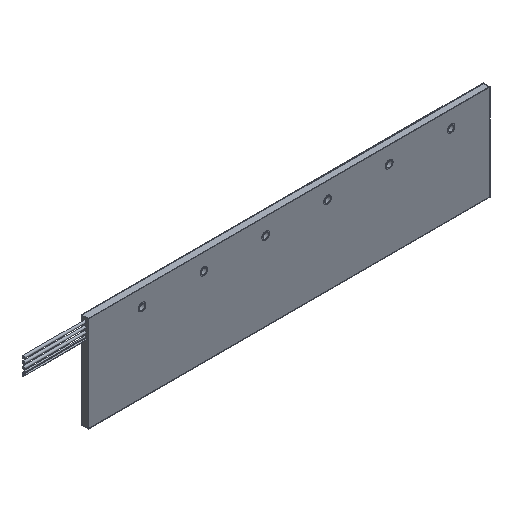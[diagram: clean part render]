
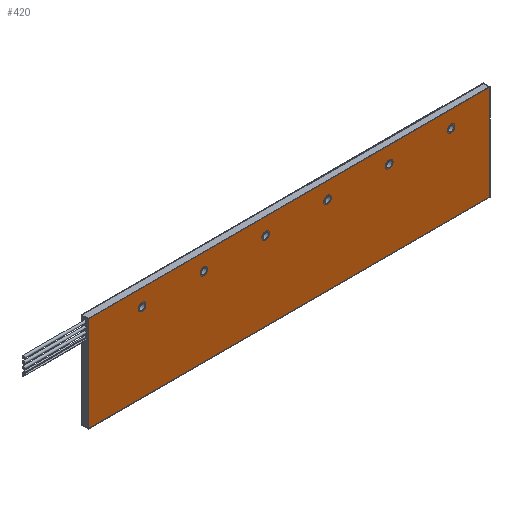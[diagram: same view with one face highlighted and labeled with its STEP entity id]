
A CAD part, isometric view. The second image highlights one B-rep face of the part: STEP entity #420.
In plain terms, the highlighted planar face has unit normal (0, -1, 0).
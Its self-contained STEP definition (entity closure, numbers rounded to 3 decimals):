
#420 = ADVANCED_FACE( '', ( #721, #722, #723, #724, #725, #726, #727 ), #728, .F. );
#721 = FACE_BOUND( '', #986, .T. );
#722 = FACE_BOUND( '', #987, .T. );
#723 = FACE_BOUND( '', #988, .T. );
#724 = FACE_BOUND( '', #989, .T. );
#725 = FACE_BOUND( '', #990, .T. );
#726 = FACE_BOUND( '', #991, .T. );
#727 = FACE_OUTER_BOUND( '', #992, .T. );
#728 = PLANE( '', #993 );
#986 = EDGE_LOOP( '', ( #1364 ) );
#987 = EDGE_LOOP( '', ( #1365 ) );
#988 = EDGE_LOOP( '', ( #1366 ) );
#989 = EDGE_LOOP( '', ( #1367 ) );
#990 = EDGE_LOOP( '', ( #1368 ) );
#991 = EDGE_LOOP( '', ( #1369 ) );
#992 = EDGE_LOOP( '', ( #1370, #1371, #1372, #1373 ) );
#993 = AXIS2_PLACEMENT_3D( '', #1374, #1375, #1376 );
#1364 = ORIENTED_EDGE( '', *, *, #1629, .T. );
#1365 = ORIENTED_EDGE( '', *, *, #1614, .T. );
#1366 = ORIENTED_EDGE( '', *, *, #1601, .T. );
#1367 = ORIENTED_EDGE( '', *, *, #1505, .T. );
#1368 = ORIENTED_EDGE( '', *, *, #1623, .T. );
#1369 = ORIENTED_EDGE( '', *, *, #1568, .T. );
#1370 = ORIENTED_EDGE( '', *, *, #1579, .T. );
#1371 = ORIENTED_EDGE( '', *, *, #1558, .T. );
#1372 = ORIENTED_EDGE( '', *, *, #1587, .T. );
#1373 = ORIENTED_EDGE( '', *, *, #1630, .T. );
#1374 = CARTESIAN_POINT( '', ( 0., 0., 61.95 ) );
#1375 = DIRECTION( '', ( 0., 1., 0. ) );
#1376 = DIRECTION( '', ( 0., 0., 1. ) );
#1505 = EDGE_CURVE( '', #1665, #1665, #1666, .T. );
#1558 = EDGE_CURVE( '', #1754, #1755, #1756, .T. );
#1568 = EDGE_CURVE( '', #1771, #1771, #1772, .T. );
#1579 = EDGE_CURVE( '', #1787, #1754, #1788, .T. );
#1587 = EDGE_CURVE( '', #1755, #1799, #1800, .T. );
#1601 = EDGE_CURVE( '', #1818, #1818, #1819, .T. );
#1614 = EDGE_CURVE( '', #1837, #1837, #1838, .T. );
#1623 = EDGE_CURVE( '', #1850, #1850, #1851, .T. );
#1629 = EDGE_CURVE( '', #1858, #1858, #1859, .T. );
#1630 = EDGE_CURVE( '', #1799, #1787, #1860, .T. );
#1665 = VERTEX_POINT( '', #1898 );
#1666 = CIRCLE( '', #1899, 1.8 );
#1754 = VERTEX_POINT( '', #2011 );
#1755 = VERTEX_POINT( '', #2012 );
#1756 = LINE( '', #2013, #2014 );
#1771 = VERTEX_POINT( '', #2035 );
#1772 = CIRCLE( '', #2036, 1.8 );
#1787 = VERTEX_POINT( '', #2054 );
#1788 = LINE( '', #2055, #2056 );
#1799 = VERTEX_POINT( '', #2069 );
#1800 = LINE( '', #2070, #2071 );
#1818 = VERTEX_POINT( '', #2093 );
#1819 = CIRCLE( '', #2094, 1.8 );
#1837 = VERTEX_POINT( '', #2113 );
#1838 = CIRCLE( '', #2114, 1.8 );
#1850 = VERTEX_POINT( '', #2127 );
#1851 = CIRCLE( '', #2128, 1.8 );
#1858 = VERTEX_POINT( '', #2137 );
#1859 = CIRCLE( '', #2138, 1.8 );
#1860 = LINE( '', #2139, #2140 );
#1898 = CARTESIAN_POINT( '', ( 236.75, 0., 50.95 ) );
#1899 = AXIS2_PLACEMENT_3D( '', #2181, #2182, #2183 );
#2011 = CARTESIAN_POINT( '', ( 0., 0., 0. ) );
#2012 = CARTESIAN_POINT( '', ( 259.9, 0., 0. ) );
#2013 = CARTESIAN_POINT( '', ( 0., 0., 0. ) );
#2014 = VECTOR( '', #2253, 1000. );
#2035 = CARTESIAN_POINT( '', ( 156.75, 0., 50.95 ) );
#2036 = AXIS2_PLACEMENT_3D( '', #2263, #2264, #2265 );
#2054 = CARTESIAN_POINT( '', ( 0., 0., 61.95 ) );
#2055 = CARTESIAN_POINT( '', ( 0., 0., 61.95 ) );
#2056 = VECTOR( '', #2275, 1000. );
#2069 = CARTESIAN_POINT( '', ( 259.9, 0., 61.95 ) );
#2070 = CARTESIAN_POINT( '', ( 259.9, 0., 0. ) );
#2071 = VECTOR( '', #2284, 1000. );
#2093 = CARTESIAN_POINT( '', ( 116.75, 0., 50.95 ) );
#2094 = AXIS2_PLACEMENT_3D( '', #2298, #2299, #2300 );
#2113 = CARTESIAN_POINT( '', ( 76.75, 0., 50.95 ) );
#2114 = AXIS2_PLACEMENT_3D( '', #2317, #2318, #2319 );
#2127 = CARTESIAN_POINT( '', ( 196.75, 0., 50.95 ) );
#2128 = AXIS2_PLACEMENT_3D( '', #2330, #2331, #2332 );
#2137 = CARTESIAN_POINT( '', ( 36.75, 0., 50.95 ) );
#2138 = AXIS2_PLACEMENT_3D( '', #2338, #2339, #2340 );
#2139 = CARTESIAN_POINT( '', ( 259.9, 0., 61.95 ) );
#2140 = VECTOR( '', #2341, 1000. );
#2181 = CARTESIAN_POINT( '', ( 234.95, 0., 50.95 ) );
#2182 = DIRECTION( '', ( 0., 1., 0. ) );
#2183 = DIRECTION( '', ( 1., 0., 0. ) );
#2253 = DIRECTION( '', ( 1., 0., 0. ) );
#2263 = CARTESIAN_POINT( '', ( 154.95, 0., 50.95 ) );
#2264 = DIRECTION( '', ( 0., 1., 0. ) );
#2265 = DIRECTION( '', ( 1., 0., 0. ) );
#2275 = DIRECTION( '', ( 0., 0., -1. ) );
#2284 = DIRECTION( '', ( 0., 0., 1. ) );
#2298 = CARTESIAN_POINT( '', ( 114.95, 0., 50.95 ) );
#2299 = DIRECTION( '', ( 0., 1., 0. ) );
#2300 = DIRECTION( '', ( 1., 0., 0. ) );
#2317 = CARTESIAN_POINT( '', ( 74.95, 0., 50.95 ) );
#2318 = DIRECTION( '', ( 0., 1., 0. ) );
#2319 = DIRECTION( '', ( 1., 0., 0. ) );
#2330 = CARTESIAN_POINT( '', ( 194.95, 0., 50.95 ) );
#2331 = DIRECTION( '', ( 0., 1., 0. ) );
#2332 = DIRECTION( '', ( 1., 0., 0. ) );
#2338 = CARTESIAN_POINT( '', ( 34.95, 0., 50.95 ) );
#2339 = DIRECTION( '', ( 0., 1., 0. ) );
#2340 = DIRECTION( '', ( 1., 0., 0. ) );
#2341 = DIRECTION( '', ( -1., 0., 0. ) );
